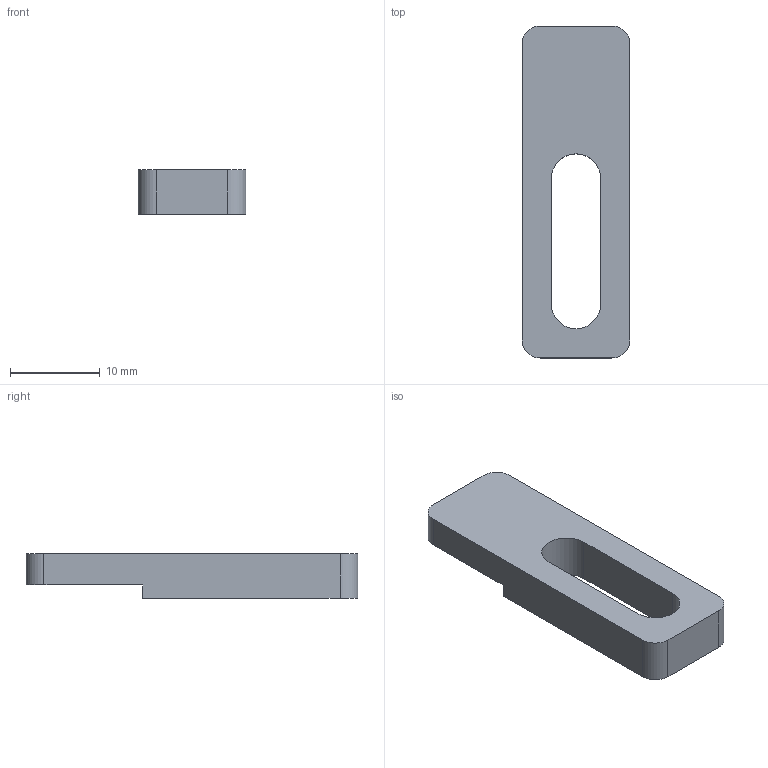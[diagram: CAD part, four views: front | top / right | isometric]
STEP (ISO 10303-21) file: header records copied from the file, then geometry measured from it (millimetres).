
FILE_DESCRIPTION (( 'STEP AP203' ), '1' );
FILE_NAME ('VA00703.STEP', '2016-06-17T06:59:44', ( '' ), ( '' ), 'SwSTEP 2.0', 'SolidWorks 2016', '' );
FILE_SCHEMA (( 'CONFIG_CONTROL_DESIGN' ));
Length unit declared in the file: millimetre
Products named in the file (1): VA00703
Bounding box: 12 x 37 x 5 mm (x, y, z)
Volume: 1467.6 mm3; surface area: 1342.4 mm2
Topology: 1 solids, 1 shells, 16 faces, 42 edges, 28 vertices
Faces by surface type: plane 10, cylinder 6
Entity records: 579 total; most frequent: DIRECTION 88, CARTESIAN_POINT 87, ORIENTED_EDGE 84, EDGE_CURVE 42, VECTOR 30, LINE 30, AXIS2_PLACEMENT_3D 29, VERTEX_POINT 28
